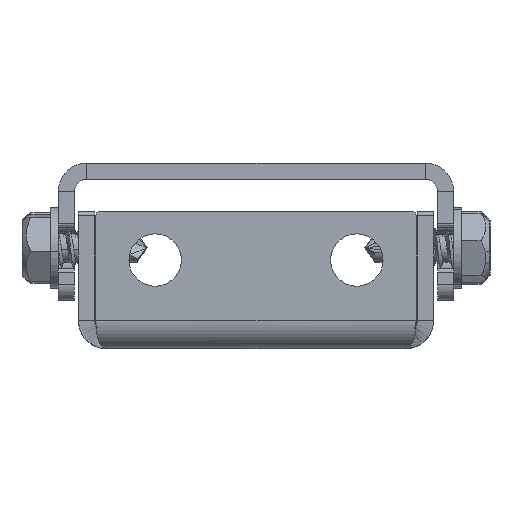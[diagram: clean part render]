
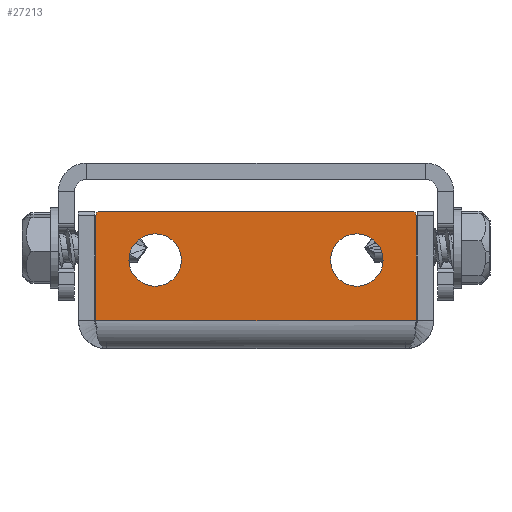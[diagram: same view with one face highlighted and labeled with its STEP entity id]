
A CAD part, left-side view. The second image highlights one B-rep face of the part: STEP entity #27213.
In plain terms, the highlighted planar face has unit normal (-1, 0, 0).
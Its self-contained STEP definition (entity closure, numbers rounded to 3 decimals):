
#125 = VERTEX_POINT ( 'NONE', #28381 ) ;
#809 = ORIENTED_EDGE ( 'NONE', *, *, #31440, .T. ) ;
#2232 = CARTESIAN_POINT ( 'NONE',  ( -26., -12.5, -11. ) ) ;
#2285 = CIRCLE ( 'NONE', #16207, 0.5 ) ;
#2986 = ORIENTED_EDGE ( 'NONE', *, *, #38672, .T. ) ;
#3252 = LINE ( 'NONE', #13152, #36924 ) ;
#3534 = VECTOR ( 'NONE', #29759, 1000. ) ;
#4114 = ORIENTED_EDGE ( 'NONE', *, *, #55931, .T. ) ;
#4427 = EDGE_LOOP ( 'NONE', ( #45579, #11250 ) ) ;
#4864 = DIRECTION ( 'NONE',  ( -1., 0., 0. ) ) ;
#5442 = VERTEX_POINT ( 'NONE', #16130 ) ;
#6345 = CIRCLE ( 'NONE', #13793, 3.25 ) ;
#6497 = DIRECTION ( 'NONE',  ( 0., 0., -1. ) ) ;
#6880 = DIRECTION ( 'NONE',  ( 0., 0., -1. ) ) ;
#7213 = CARTESIAN_POINT ( 'NONE',  ( -26., -12.5, -14.25 ) ) ;
#7806 = CIRCLE ( 'NONE', #17125, 3.25 ) ;
#9382 = EDGE_CURVE ( 'NONE', #24032, #43229, #20742, .T. ) ;
#9511 = CARTESIAN_POINT ( 'NONE',  ( -26., 12.5, -11. ) ) ;
#9542 = EDGE_CURVE ( 'NONE', #15996, #55401, #7806, .T. ) ;
#10972 = DIRECTION ( 'NONE',  ( 1., 0., 0. ) ) ;
#11228 = FACE_OUTER_BOUND ( 'NONE', #29941, .T. ) ;
#11250 = ORIENTED_EDGE ( 'NONE', *, *, #47433, .T. ) ;
#11781 = CARTESIAN_POINT ( 'NONE',  ( -26., 0., -17. ) ) ;
#11841 = DIRECTION ( 'NONE',  ( 0., 0., -1. ) ) ;
#12295 = CARTESIAN_POINT ( 'NONE',  ( -26., 19.859, -3.5 ) ) ;
#13152 = CARTESIAN_POINT ( 'NONE',  ( -26., -18.5, -3.5 ) ) ;
#13183 = VERTEX_POINT ( 'NONE', #43653 ) ;
#13793 = AXIS2_PLACEMENT_3D ( 'NONE', #9511, #35139, #27263 ) ;
#14498 = CARTESIAN_POINT ( 'NONE',  ( -26., 19.359, -17. ) ) ;
#14700 = VERTEX_POINT ( 'NONE', #14498 ) ;
#14921 = VECTOR ( 'NONE', #31766, 1000. ) ;
#15260 = EDGE_CURVE ( 'NONE', #14700, #13183, #16154, .T. ) ;
#15590 = DIRECTION ( 'NONE',  ( 1., 0., 0. ) ) ;
#15996 = VERTEX_POINT ( 'NONE', #7213 ) ;
#16130 = CARTESIAN_POINT ( 'NONE',  ( -26., 19.859, -16.5 ) ) ;
#16154 = LINE ( 'NONE', #11781, #14921 ) ;
#16207 = AXIS2_PLACEMENT_3D ( 'NONE', #44276, #53593, #17519 ) ;
#17125 = AXIS2_PLACEMENT_3D ( 'NONE', #36416, #23307, #27113 ) ;
#17476 = ORIENTED_EDGE ( 'NONE', *, *, #42685, .T. ) ;
#17519 = DIRECTION ( 'NONE',  ( 0., 0., -1. ) ) ;
#17620 = ORIENTED_EDGE ( 'NONE', *, *, #15260, .T. ) ;
#19358 = AXIS2_PLACEMENT_3D ( 'NONE', #2232, #10972, #6880 ) ;
#19402 = CARTESIAN_POINT ( 'NONE',  ( -26., -19.359, -16.5 ) ) ;
#19564 = VERTEX_POINT ( 'NONE', #21207 ) ;
#19676 = CARTESIAN_POINT ( 'NONE',  ( -26., 0., 0. ) ) ;
#20742 = LINE ( 'NONE', #46384, #29155 ) ;
#21207 = CARTESIAN_POINT ( 'NONE',  ( -26., 12.5, -7.75 ) ) ;
#23307 = DIRECTION ( 'NONE',  ( 1., 0., 0. ) ) ;
#24032 = VERTEX_POINT ( 'NONE', #37464 ) ;
#25291 = VERTEX_POINT ( 'NONE', #55026 ) ;
#26819 = EDGE_LOOP ( 'NONE', ( #28958, #809 ) ) ;
#27113 = DIRECTION ( 'NONE',  ( 0., 0., -1. ) ) ;
#27213 = ADVANCED_FACE ( 'NONE', ( #37997, #41799, #11228 ), #28971, .F. ) ;
#27263 = DIRECTION ( 'NONE',  ( 0., 0., -1. ) ) ;
#27545 = DIRECTION ( 'NONE',  ( 0., 0., -1. ) ) ;
#28159 = CARTESIAN_POINT ( 'NONE',  ( -26., -12.5, -7.75 ) ) ;
#28381 = CARTESIAN_POINT ( 'NONE',  ( -26., 12.5, -14.25 ) ) ;
#28681 = DIRECTION ( 'NONE',  ( 0., 0., -1. ) ) ;
#28958 = ORIENTED_EDGE ( 'NONE', *, *, #53254, .T. ) ;
#28971 = PLANE ( 'NONE',  #53639 ) ;
#29155 = VECTOR ( 'NONE', #6497, 1000. ) ;
#29759 = DIRECTION ( 'NONE',  ( 0., 0., -1. ) ) ;
#29941 = EDGE_LOOP ( 'NONE', ( #17620, #2986, #55707, #54539, #4114, #17476 ) ) ;
#30528 = CIRCLE ( 'NONE', #19358, 3.25 ) ;
#30641 = EDGE_CURVE ( 'NONE', #25291, #24032, #3252, .T. ) ;
#31055 = CARTESIAN_POINT ( 'NONE',  ( -26., -19.859, -16.5 ) ) ;
#31440 = EDGE_CURVE ( 'NONE', #19564, #125, #6345, .T. ) ;
#31766 = DIRECTION ( 'NONE',  ( 0., -1., 0. ) ) ;
#35139 = DIRECTION ( 'NONE',  ( 1., 0., 0. ) ) ;
#36416 = CARTESIAN_POINT ( 'NONE',  ( -26., -12.5, -11. ) ) ;
#36924 = VECTOR ( 'NONE', #56532, 1000. ) ;
#37464 = CARTESIAN_POINT ( 'NONE',  ( -26., -19.859, -3.5 ) ) ;
#37997 = FACE_BOUND ( 'NONE', #4427, .T. ) ;
#38611 = DIRECTION ( 'NONE',  ( 1., 0., 0. ) ) ;
#38672 = EDGE_CURVE ( 'NONE', #13183, #43229, #54999, .T. ) ;
#39602 = CIRCLE ( 'NONE', #47053, 3.25 ) ;
#41799 = FACE_BOUND ( 'NONE', #26819, .T. ) ;
#42685 = EDGE_CURVE ( 'NONE', #5442, #14700, #2285, .T. ) ;
#43229 = VERTEX_POINT ( 'NONE', #31055 ) ;
#43653 = CARTESIAN_POINT ( 'NONE',  ( -26., -19.359, -17. ) ) ;
#43863 = CARTESIAN_POINT ( 'NONE',  ( -26., 12.5, -11. ) ) ;
#44276 = CARTESIAN_POINT ( 'NONE',  ( -26., 19.359, -16.5 ) ) ;
#45579 = ORIENTED_EDGE ( 'NONE', *, *, #9542, .T. ) ;
#46384 = CARTESIAN_POINT ( 'NONE',  ( -26., -19.859, -3.5 ) ) ;
#47053 = AXIS2_PLACEMENT_3D ( 'NONE', #43863, #38611, #11841 ) ;
#47433 = EDGE_CURVE ( 'NONE', #55401, #15996, #30528, .T. ) ;
#52191 = LINE ( 'NONE', #12295, #3534 ) ;
#53134 = AXIS2_PLACEMENT_3D ( 'NONE', #19402, #4864, #27545 ) ;
#53254 = EDGE_CURVE ( 'NONE', #125, #19564, #39602, .T. ) ;
#53593 = DIRECTION ( 'NONE',  ( -1., 0., 0. ) ) ;
#53639 = AXIS2_PLACEMENT_3D ( 'NONE', #19676, #15590, #28681 ) ;
#54539 = ORIENTED_EDGE ( 'NONE', *, *, #30641, .F. ) ;
#54999 = CIRCLE ( 'NONE', #53134, 0.5 ) ;
#55026 = CARTESIAN_POINT ( 'NONE',  ( -26., 19.859, -3.5 ) ) ;
#55401 = VERTEX_POINT ( 'NONE', #28159 ) ;
#55707 = ORIENTED_EDGE ( 'NONE', *, *, #9382, .F. ) ;
#55931 = EDGE_CURVE ( 'NONE', #25291, #5442, #52191, .T. ) ;
#56532 = DIRECTION ( 'NONE',  ( 0., -1., 0. ) ) ;
